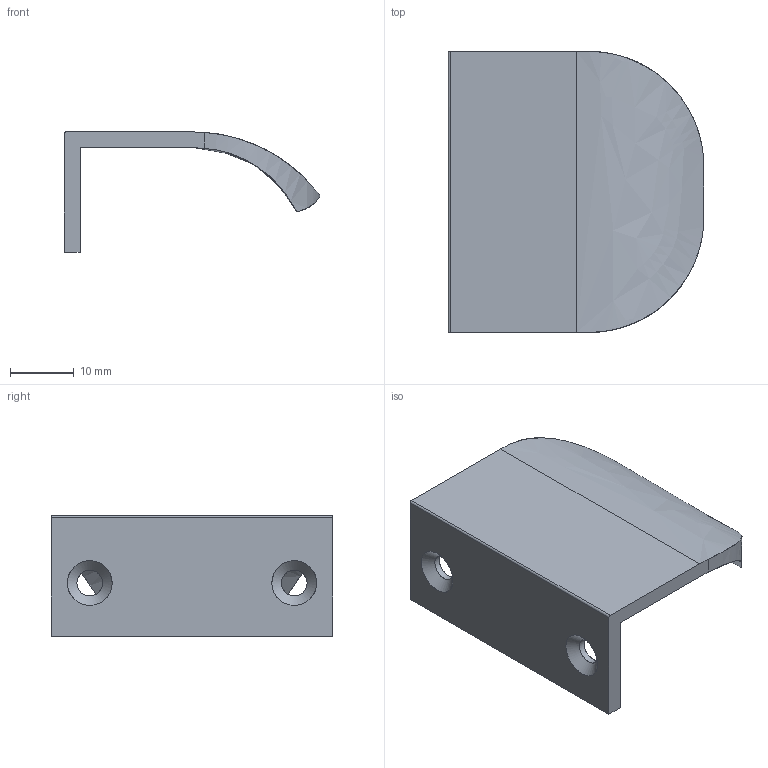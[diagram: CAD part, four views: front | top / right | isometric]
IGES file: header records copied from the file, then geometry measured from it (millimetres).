
Start section: C
Global section: file name: 8340-44 RE7.igs; native system: By Siemens PLM Incorporated; preprocessor: XPlus GENERIC/IGES 16.0.42; author: Author; organization: Title; date: 20230831.082530; units: millimetre
Bounding box: 40 x 44 x 18.8 mm (x, y, z)
Surface area: 5395.6 mm2 (no closed solid volume)
Topology: 0 solids, 0 shells, 19 faces, 114 edges, 114 vertices
Faces by surface type: bspline 19
